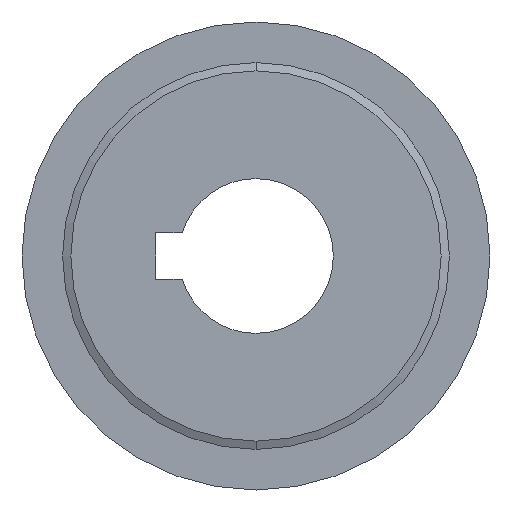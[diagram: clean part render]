
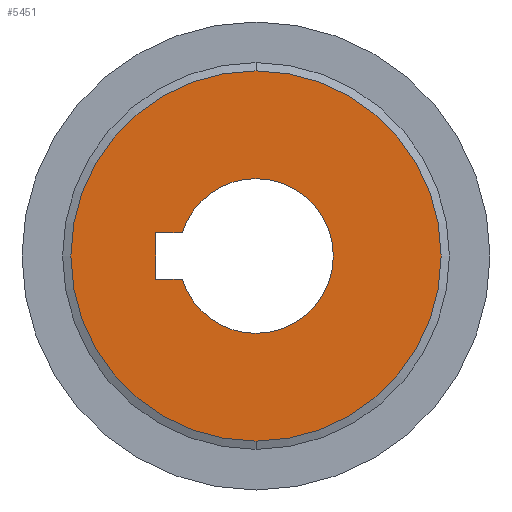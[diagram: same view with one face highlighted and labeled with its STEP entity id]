
A CAD part, left-side view. The second image highlights one B-rep face of the part: STEP entity #5451.
In plain terms, the highlighted planar face has unit normal (-1, 0, 0).
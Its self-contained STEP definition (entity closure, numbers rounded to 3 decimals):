
#847 = CARTESIAN_POINT ( 'NONE',  ( -6., 0., 0. ) ) ;
#1085 = AXIS2_PLACEMENT_3D ( 'NONE', #6163, #13891, #3476 ) ;
#1509 = VERTEX_POINT ( 'NONE', #2858 ) ;
#1727 = CARTESIAN_POINT ( 'NONE',  ( -6., 9.539, -3. ) ) ;
#2216 = DIRECTION ( 'NONE',  ( -1., 0., 0. ) ) ;
#2318 = DIRECTION ( 'NONE',  ( 0., 0., 1. ) ) ;
#2359 = VERTEX_POINT ( 'NONE', #9854 ) ;
#2668 = ORIENTED_EDGE ( 'NONE', *, *, #15308, .T. ) ;
#2858 = CARTESIAN_POINT ( 'NONE',  ( -6., 0., -10. ) ) ;
#3102 = DIRECTION ( 'NONE',  ( -1., 0., 0. ) ) ;
#3476 = DIRECTION ( 'NONE',  ( 0., 0., 1. ) ) ;
#3511 = VERTEX_POINT ( 'NONE', #15660 ) ;
#3632 = PLANE ( 'NONE',  #12788 ) ;
#3736 = LINE ( 'NONE', #13984, #15283 ) ;
#3768 = CARTESIAN_POINT ( 'NONE',  ( -6., 0., 0. ) ) ;
#3795 = CIRCLE ( 'NONE', #11836, 10. ) ;
#3805 = CARTESIAN_POINT ( 'NONE',  ( -6., 8.299, 3. ) ) ;
#3869 = CARTESIAN_POINT ( 'NONE',  ( -6., 0., -23.928 ) ) ;
#4809 = EDGE_CURVE ( 'NONE', #10670, #1509, #10412, .T. ) ;
#4968 = ORIENTED_EDGE ( 'NONE', *, *, #4809, .F. ) ;
#5030 = DIRECTION ( 'NONE',  ( -1., 0., 0. ) ) ;
#5211 = EDGE_LOOP ( 'NONE', ( #13462, #6991, #14002, #12068, #13063, #4968 ) ) ;
#5451 = ADVANCED_FACE ( 'NONE', ( #7323, #13723 ), #3632, .T. ) ;
#5465 = EDGE_LOOP ( 'NONE', ( #2668, #6294 ) ) ;
#6074 = DIRECTION ( 'NONE',  ( 0., 0., 1. ) ) ;
#6163 = CARTESIAN_POINT ( 'NONE',  ( -6., 0., 0. ) ) ;
#6200 = DIRECTION ( 'NONE',  ( 0., 0., 1. ) ) ;
#6294 = ORIENTED_EDGE ( 'NONE', *, *, #12666, .T. ) ;
#6368 = DIRECTION ( 'NONE',  ( 0., 0., 1. ) ) ;
#6991 = ORIENTED_EDGE ( 'NONE', *, *, #7560, .T. ) ;
#7133 = DIRECTION ( 'NONE',  ( -1., 0., 0. ) ) ;
#7323 = FACE_BOUND ( 'NONE', #5211, .T. ) ;
#7560 = EDGE_CURVE ( 'NONE', #7843, #12264, #3736, .T. ) ;
#7632 = DIRECTION ( 'NONE',  ( -1., 0., 0. ) ) ;
#7843 = VERTEX_POINT ( 'NONE', #13887 ) ;
#8073 = EDGE_CURVE ( 'NONE', #12264, #3511, #15622, .T. ) ;
#8166 = CARTESIAN_POINT ( 'NONE',  ( -6., 12.982, 3. ) ) ;
#8282 = AXIS2_PLACEMENT_3D ( 'NONE', #13848, #5030, #6200 ) ;
#8314 = DIRECTION ( 'NONE',  ( 0., 0., 1. ) ) ;
#8744 = CARTESIAN_POINT ( 'NONE',  ( -6., 0., 0. ) ) ;
#8908 = VERTEX_POINT ( 'NONE', #3869 ) ;
#9031 = CARTESIAN_POINT ( 'NONE',  ( -6., 0., 10. ) ) ;
#9854 = CARTESIAN_POINT ( 'NONE',  ( -6., 0., 23.928 ) ) ;
#10412 = CIRCLE ( 'NONE', #16058, 10. ) ;
#10578 = VERTEX_POINT ( 'NONE', #9031 ) ;
#10670 = VERTEX_POINT ( 'NONE', #1727 ) ;
#10999 = DIRECTION ( 'NONE',  ( 0., 0., 1. ) ) ;
#11009 = DIRECTION ( 'NONE',  ( 0., 1., 0. ) ) ;
#11590 = AXIS2_PLACEMENT_3D ( 'NONE', #847, #7133, #8314 ) ;
#11818 = VECTOR ( 'NONE', #11009, 1000. ) ;
#11836 = AXIS2_PLACEMENT_3D ( 'NONE', #3768, #7632, #6368 ) ;
#11916 = DIRECTION ( 'NONE',  ( 0., -1., 0. ) ) ;
#12068 = ORIENTED_EDGE ( 'NONE', *, *, #12813, .F. ) ;
#12174 = CARTESIAN_POINT ( 'NONE',  ( -6., 0., 0. ) ) ;
#12263 = LINE ( 'NONE', #13793, #11818 ) ;
#12264 = VERTEX_POINT ( 'NONE', #8166 ) ;
#12666 = EDGE_CURVE ( 'NONE', #2359, #8908, #13198, .T. ) ;
#12788 = AXIS2_PLACEMENT_3D ( 'NONE', #8744, #2216, #6074 ) ;
#12813 = EDGE_CURVE ( 'NONE', #10578, #3511, #3795, .T. ) ;
#13063 = ORIENTED_EDGE ( 'NONE', *, *, #16509, .F. ) ;
#13198 = CIRCLE ( 'NONE', #11590, 23.928 ) ;
#13462 = ORIENTED_EDGE ( 'NONE', *, *, #15512, .T. ) ;
#13723 = FACE_OUTER_BOUND ( 'NONE', #5465, .T. ) ;
#13793 = CARTESIAN_POINT ( 'NONE',  ( -6., 8.299, -3. ) ) ;
#13848 = CARTESIAN_POINT ( 'NONE',  ( -6., 0., 0. ) ) ;
#13887 = CARTESIAN_POINT ( 'NONE',  ( -6., 12.982, -3. ) ) ;
#13891 = DIRECTION ( 'NONE',  ( -1., 0., 0. ) ) ;
#13984 = CARTESIAN_POINT ( 'NONE',  ( -6., 12.982, 3. ) ) ;
#14001 = VECTOR ( 'NONE', #11916, 1000. ) ;
#14002 = ORIENTED_EDGE ( 'NONE', *, *, #8073, .T. ) ;
#15005 = CIRCLE ( 'NONE', #8282, 10. ) ;
#15283 = VECTOR ( 'NONE', #2318, 1000. ) ;
#15306 = CIRCLE ( 'NONE', #1085, 23.928 ) ;
#15308 = EDGE_CURVE ( 'NONE', #8908, #2359, #15306, .T. ) ;
#15512 = EDGE_CURVE ( 'NONE', #10670, #7843, #12263, .T. ) ;
#15622 = LINE ( 'NONE', #3805, #14001 ) ;
#15660 = CARTESIAN_POINT ( 'NONE',  ( -6., 9.539, 3. ) ) ;
#16058 = AXIS2_PLACEMENT_3D ( 'NONE', #12174, #3102, #10999 ) ;
#16509 = EDGE_CURVE ( 'NONE', #1509, #10578, #15005, .T. ) ;
